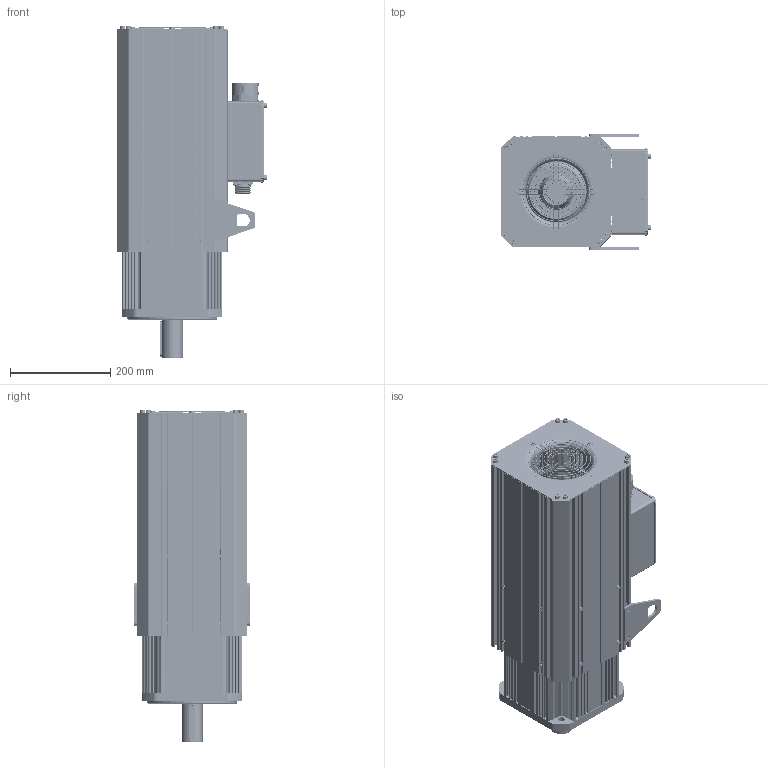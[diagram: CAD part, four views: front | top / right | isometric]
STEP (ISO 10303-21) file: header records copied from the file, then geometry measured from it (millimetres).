
FILE_DESCRIPTION((''),'2;1');
FILE_NAME('SV-MH20-015B-X-XAX-1000__ASM','2019-12-11T',('Administrator'),(''),'PRO/ENGINEER BY PARAMETRIC TECHNOLOGY CORPORATION, 2010280','PRO/ENGINEER BY PARAMETRIC TECHNOLOGY CORPORATION, 2010280','');
FILE_SCHEMA(('CONFIG_CONTROL_DESIGN'));
Products named in the file (63): QDG_10600-00001_1; ZZ_12400-02003_13KW_1; ZC_30400-00001_1; ZC_30400-01002_1; ZCZDQ_11200-00001_1; ZZZJ_80500-02003_13KW_ASM_2_ASM; O-RING_50000-01002_1; M6X35_1; ZCYG_10900-00001_1; JK_10200-45046_13KW_4; DZZJ_80200-02003_13KW_ASM_2_ASM; MANIFOLD_SOLID_BREP_53195; MANIFOLD_SOLID_BREP_62026; MANIFOLD_SOLID_BREP_70343; MANIFOLD_SOLID_BREP_78660; FDB_12900-61062_13KW_5_ASM; DEGDT_11500-02003_1; DE_11300-00001_1; O-RING_50000-02003_1; YXHQ_20300-00001_1; O-RING_50000-03004_1; JXHT_41000-09010_1; JXHG_41000-00001_1; JXHGDK_11600-04005_1; M6X10_1; XJD_50800-11012_1; AD13_1_1; AD42P5_3_1; MFD_YD28-15P_1; HKXZ_YD28-15P_40100-00001_1; PDLD_4X12_1; JXHZJ_81100-00002_ASM_1_ASM; M5X25_1; HDG_21200-00001_1; M8X30_1; HGB_21600-00001_1; M4X10_1; MANIFOLD_SOLID_BREP_152700; MANIFOLD_SOLID_BREP_153096; FJ_40000-03004_1_ASM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
Assembly tree (137 placements, depth 5):
  SV-MH20-015B-X-XAX-1000__ASM
    K072F18C18P_ASM_3_ASM
      QDG_10600-00001_1
      ZZZJ_80500-02003_13KW_ASM_2_ASM
        ZZ_12400-02003_13KW_1
        ZC_30400-00001_1
        ZC_30400-01002_1
        ZCZDQ_11200-00001_1
      O-RING_50000-01002_1
      M6X35_1  x4
      ZCYG_10900-00001_1
      DZZJ_80200-02003_13KW_ASM_2_ASM
        JK_10200-45046_13KW_4
      FDB_12900-61062_13KW_5_ASM
        MANIFOLD_SOLID_BREP_53195
        MANIFOLD_SOLID_BREP_62026
        MANIFOLD_SOLID_BREP_70343
        MANIFOLD_SOLID_BREP_78660
      DEGDT_11500-02003_1  x2
      DE_11300-00001_1  x2
      O-RING_50000-02003_1
      YXHQ_20300-00001_1
      O-RING_50000-03004_1
      JXHZJ_81100-00002_ASM_1_ASM
        JXHT_41000-09010_1
        JXHG_41000-00001_1
        JXHGDK_11600-04005_1  x4
        M6X10_1  x8
        XJD_50800-11012_1
        AD13_1_1
        AD42P5_3_1
        MFD_YD28-15P_1
        HKXZ_YD28-15P_40100-00001_1
        PDLD_4X12_1  x4
      M5X25_1  x16
      HDG_21200-00001_1
      M8X30_1  x16
      HGB_21600-00001_1
      M4X10_1  x10
      FJ_40000-03004_1_ASM
        MANIFOLD_SOLID_BREP_152700
        MANIFOLD_SOLID_BREP_153096
      M4X12_1  x4
      FJFHBZZ_ASM_1_ASM
        FJFHB_11100-02003_1
        FHW_30500-00001_1_ASM
          MANIFOLD_SOLID_BREP_155424
          MANIFOLD_SOLID_BREP_155530
          MANIFOLD_SOLID_BREP_155636
          MANIFOLD_SOLID_BREP_155926
          MANIFOLD_SOLID_BREP_156216
          MANIFOLD_SOLID_BREP_156506
          MANIFOLD_SOLID_BREP_156796
          MANIFOLD_SOLID_BREP_156902
          MANIFOLD_SOLID_BREP_157008
          MANIFOLD_SOLID_BREP_157114
          MANIFOLD_SOLID_BREP_157220
        PDQ_4_1  x4
        MD_4_1  x4
      M6X10_1  x8
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Bounding box: 300.6 x 231.5 x 664 mm (x, y, z)
Volume: 8702353.1 mm3; surface area: 3222165.2 mm2
Topology: 129 solids, 129 shells, 6056 faces, 17717 edges, 12116 vertices
Faces by surface type: plane 2944, cylinder 2351, cone 372, torus 287, bspline 84, sphere 18
Entity records: 176298 total; most frequent: CARTESIAN_POINT 43561, ORIENTED_EDGE 28550, DIRECTION 27449, EDGE_CURVE 14275, AXIS2_PLACEMENT_3D 9900, VERTEX_POINT 9865, VECTOR 7649, LINE 7649
